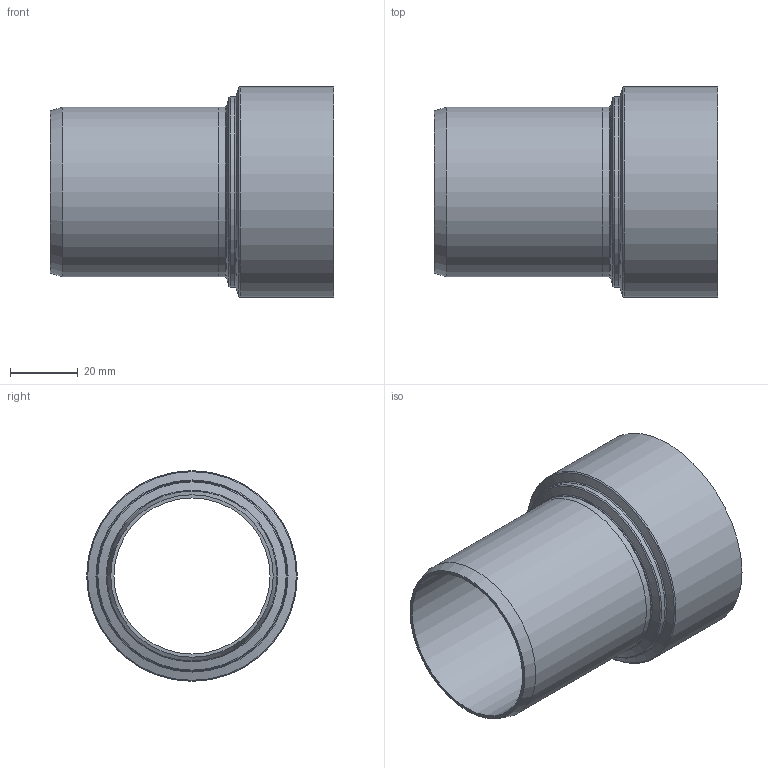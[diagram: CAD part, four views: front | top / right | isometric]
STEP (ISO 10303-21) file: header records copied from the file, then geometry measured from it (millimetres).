
FILE_DESCRIPTION(/* description */ (''),/* implementation_level */ '2;1');
FILE_NAME(/* name */ 'Z:\Geberit\Export\NewStep\390281.stp',/* time_stamp */ '2014-04-02T08:10:41+02:00',/* author */ ('ML'),/* organization */ (''),/* preprocessor_version */ 'ST-DEVELOPER v15.2',/* originating_system */ 'Autodesk Inventor 2014',/* authorisation */ '');
FILE_SCHEMA (('AUTOMOTIVE_DESIGN { 1 0 10303 214 3 1 1 }'));
Length unit declared in the file: millimetre
Products named in the file (3): 861472; 861472Muffe; 390281
Bounding box: 83.68 x 62.25 x 62.25 mm (x, y, z)
Volume: 29690.9 mm3; surface area: 30380.3 mm2
Topology: 2 solids, 2 shells, 20 faces, 36 edges, 20 vertices
Faces by surface type: cylinder 7, torus 5, cone 4, plane 4
Full cylindrical faces by diameter (mm): 46.15 x2, 50.15 x2, 56.2 x1, 58.25 x1, 62.25 x1
Entity records: 492 total; most frequent: DIRECTION 90, CARTESIAN_POINT 65, AXIS2_PLACEMENT_3D 45, EDGE_LOOP 40, ORIENTED_EDGE 40, FACE_BOUND 23, STYLED_ITEM 22, CIRCLE 20
